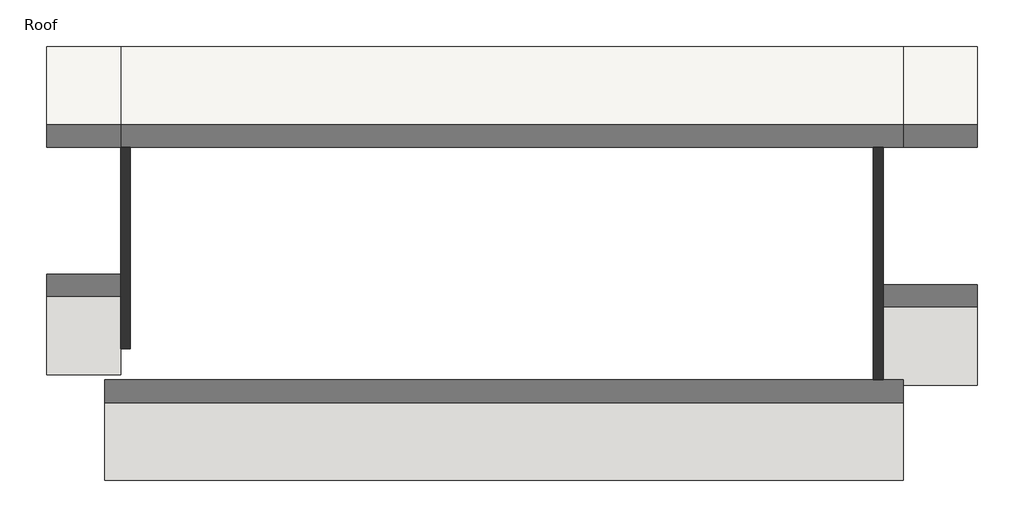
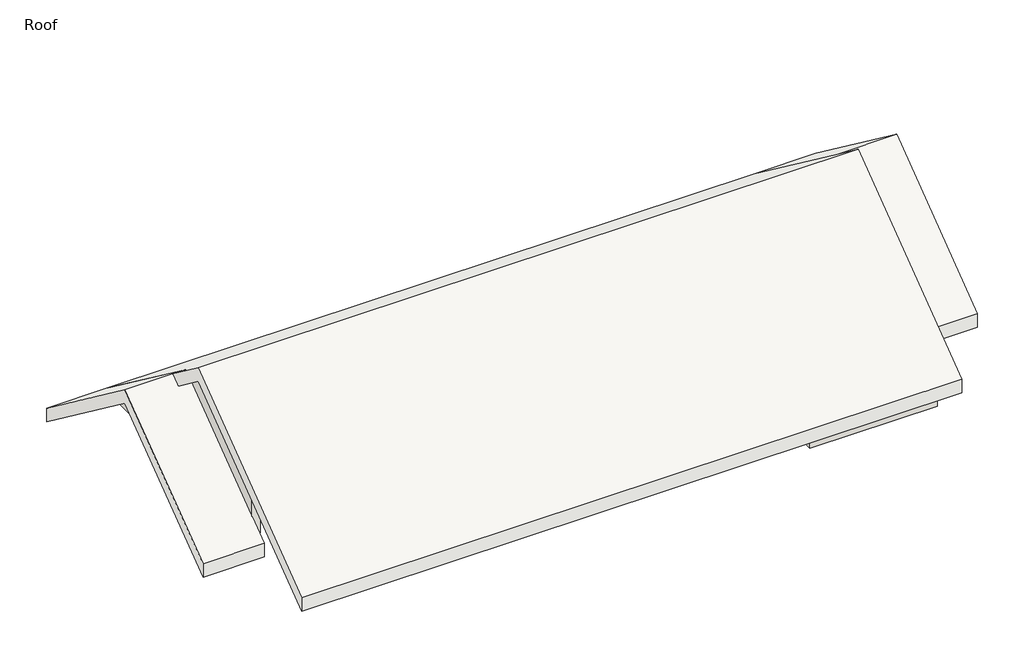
# One storey: 3 roofs, 3 walls.
"""IFC4 building model written with IfcOpenShell, lengths in millimetres."""

from ifc_helpers import new_model, si_unit, frame, origin, place, context, project, spatial, polyline, outline, extrude, faceted_brep, element, save

model = new_model("IFC4")

# Units and contexts
model_context = context("Model", 3, world=origin())
ifc_project = project(units=[si_unit("LENGTHUNIT", "METRE", prefix="MILLI")], contexts=[model_context])

# Site, building, storey
site = spatial("IfcSite", under=ifc_project)
building = spatial("IfcBuilding", under=site)
storey = spatial("IfcBuildingStorey", under=building, Name="Roof", Elevation=3300.0)

# Roofs
placement = place(None, origin())
element("IfcRoof", 1, ObjectType="Wood Rafter 235mm - Asphalt Shingle", at=placement, inside=storey, context=model_context, shape_type="Brep", body=[
    faceted_brep([(9058.9222239, 4147.8910467, 3075.0), (9058.9222239, 947.8910467, 5475.0), (9058.9222239, 732.0577134, 5636.875), (9058.9222239, 47.8910467, 6150.0), (-6041.0777761, 47.8910467, 6150.0), (-6041.0777761, 832.0577134, 5561.875), (-5741.0777761, 832.0577134, 5561.875), (-5741.0777761, 1047.8910467, 5400.0), (-5741.0777761, 4147.8910467, 3075.0), (9058.9222239, -4052.1089533, 3075.0), (-6041.0777761, -4052.1089533, 3075.0), (-6041.0777761, 47.8910467, 6473.75), (9058.9222239, 47.8910467, 6473.75), (9058.9222239, 947.8910467, 5798.75), (9058.9222239, 4147.8910467, 3398.75), (-5741.0777761, 4147.8910467, 3398.75), (-5741.0777761, 1047.8910467, 5723.75), (-6041.0777761, 1047.8910467, 5723.75), (-6041.0777761, -4052.1089533, 3398.75), (9058.9222239, -4052.1089533, 3398.75)], [[[0, 1, 2, 3, 4, 5, 6, 7, 8]], [[4, 3, 9, 10]], [[11, 12, 13, 14, 15, 16, 17]], [[12, 11, 18, 19]], [[19, 18, 10, 9]], [[14, 0, 8, 15]], [[4, 10, 18, 11, 17, 5]], [[3, 2, 1, 0, 14, 13, 12, 19, 9]], [[16, 6, 5, 17]], [[6, 16, 15, 8, 7]]]),
])
element("IfcRoof", 2, ObjectType="Wood Rafter 235mm - Asphalt Shingle", at=placement, inside=storey, context=model_context, shape_type="Brep", body=[
    faceted_brep([(10457.4222239, 4147.8910467, 3075.0), (10457.4222239, 947.8910467, 5475.0), (9058.9222239, 947.8910467, 5475.0), (9058.9222239, 4147.8910467, 3075.0), (10457.4222239, -2252.1089533, 3075.0), (8673.4222239, -2252.1089533, 3075.0), (8673.4222239, 947.8910467, 5475.0), (10457.4222239, 947.8910467, 5798.75), (10457.4222239, 4147.8910467, 3398.75), (9058.9222239, 4147.8910467, 3398.75), (9058.9222239, 947.8910467, 5798.75), (10457.4222239, -2252.1089533, 3398.75), (9058.9222239, 732.0577134, 5636.875), (8673.4222239, 732.0577134, 5636.875), (8673.4222239, -2252.1089533, 3398.75)], [[[0, 1, 2, 3]], [[1, 4, 5, 6, 2]], [[7, 8, 9, 10]], [[11, 7, 10, 12, 13, 14]], [[8, 0, 3, 9]], [[11, 14, 5, 4]], [[1, 0, 8, 7, 11, 4]], [[6, 5, 14, 13]], [[12, 2, 6, 13]], [[2, 12, 10, 9, 3]]]),
])
element("IfcRoof", 3, ObjectType="Wood Rafter 235mm - Asphalt Shingle", at=placement, inside=storey, context=model_context, shape_type="Brep", body=[
    faceted_brep([(-7139.5777761, 1047.8910467, 5400.0), (-7139.5777761, 4147.8910467, 3075.0), (-5741.0777761, 4147.8910467, 3075.0), (-5741.0777761, 1047.8910467, 5400.0), (-5741.0777761, -2052.1089533, 3075.0), (-7139.5777761, -2052.1089533, 3075.0), (-7139.5777761, 4147.8910467, 3398.75), (-7139.5777761, 1047.8910467, 5723.75), (-6041.0777761, 1047.8910467, 5723.75), (-5741.0777761, 1047.8910467, 5723.75), (-5741.0777761, 4147.8910467, 3398.75), (-7139.5777761, -2052.1089533, 3398.75), (-5741.0777761, -2052.1089533, 3398.75), (-5741.0777761, 832.0577134, 5561.875)], [[[0, 1, 2, 3]], [[4, 5, 0, 3]], [[6, 7, 8, 9, 10]], [[11, 12, 13, 9, 8, 7]], [[4, 12, 11, 5]], [[1, 6, 10, 2]], [[11, 7, 6, 1, 0, 5]], [[10, 9, 13, 12, 4, 3, 2]]]),
])

# Walls
element("IfcWall", 4, ObjectType="M_Exterior - Wood Siding on Wood Stud", at=placement, inside=storey, context=model_context, shape_type="Brep", body=[
    faceted_brep([(5758.9222239, -3752.1089533, 2700.0), (8673.4222239, -3752.1089533, 2700.0), (8673.4222239, -3752.1089533, 3300.0), (5758.9222239, -3752.1089533, 3300.0), (5758.9222239, -3568.1089533, 2700.0), (5758.9222239, -3568.1089533, 3438.0), (8489.4222239, -3568.1089533, 3438.0), (8673.4222239, -3568.1089533, 3438.0), (8673.4222239, -3568.1089533, 2700.0), (8639.4222239, -3568.1089533, 2700.0), (8489.4222239, -3568.1089533, 2700.0)], [[[0, 1, 2, 3]], [[4, 5, 6, 7, 8, 9, 10]], [[1, 0, 4, 10, 9, 8]], [[0, 3, 5, 4]], [[2, 1, 8, 7]], [[3, 2, 7, 6, 5]]]),
])
element("IfcWall", 5, ObjectType="M_Exterior - Wood Siding on Wood Stud", at=placement, inside=storey, context=model_context, shape_type="SweptSolid", body=[
    extrude(outline(polyline([(-3568.1089533, 2700.0), (-3568.1089533, 3438.0), (47.8910467, 6150.0), (3663.8910467, 3438.0), (3663.8910467, 2700.0), (-1768.1089533, 2700.0), (-1768.1089533, 3300.0), (-1952.1089533, 3300.0), (-1952.1089533, 2700.0), (-3568.1089533, 2700.0)])), frame((8489.4222239, 0.0, 0.0), z_axis=(1.0, 0.0, 0.0), x_axis=(0.0, 1.0, 0.0)), (0.0, 0.0, 1.0), 184.0),
])
element("IfcWall", 6, ObjectType="M_Exterior - Wood Siding on Wood Stud", at=placement, inside=storey, context=model_context, shape_type="SweptSolid", body=[
    extrude(outline(polyline([(-1568.1089533, 3300.0), (-1568.1089533, 4938.0), (47.8910467, 6150.0), (3663.8910467, 3438.0), (3663.8910467, 3300.0), (-1568.1089533, 3300.0)])), frame((-5741.0777761, 0.0, 0.0), z_axis=(1.0, 0.0, 0.0), x_axis=(0.0, 1.0, 0.0)), (0.0, 0.0, 1.0), 184.0),
])

save(model, "model.ifc")
